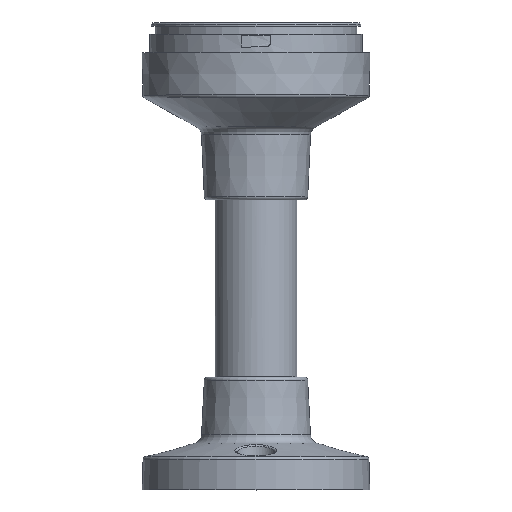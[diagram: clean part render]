
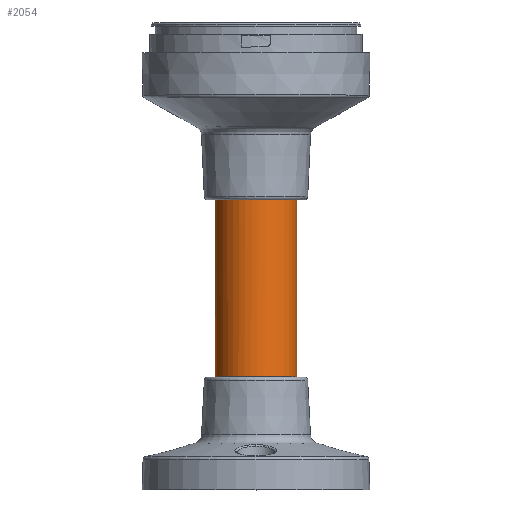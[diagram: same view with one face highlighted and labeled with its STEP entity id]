
A CAD part, top view. The second image highlights one B-rep face of the part: STEP entity #2054.
In plain terms, the highlighted cylindrical face has radius 12.7 mm (diameter 25.4 mm), a full revolution.
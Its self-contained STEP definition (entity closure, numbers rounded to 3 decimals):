
#151=CYLINDRICAL_SURFACE('',#24389,12.7);
#2054=ADVANCED_FACE('',(#5658,#5659),#151,.T.);
#4639=CIRCLE('',#24161,12.7);
#4641=CIRCLE('',#24164,12.7);
#4652=CIRCLE('',#24184,12.7);
#4654=CIRCLE('',#24186,12.7);
#4751=CIRCLE('',#24383,12.7);
#4752=CIRCLE('',#24385,12.7);
#4753=CIRCLE('',#24387,12.7);
#4754=CIRCLE('',#24388,12.7);
#5658=FACE_BOUND('',#6088,.T.);
#5659=FACE_BOUND('',#6089,.T.);
#6088=EDGE_LOOP('',(#8295,#8296,#8297,#8298));
#6089=EDGE_LOOP('',(#8299,#8300,#8301,#8302));
#8295=ORIENTED_EDGE('',*,*,#17330,.F.);
#8296=ORIENTED_EDGE('',*,*,#17071,.T.);
#8297=ORIENTED_EDGE('',*,*,#17329,.F.);
#8298=ORIENTED_EDGE('',*,*,#17075,.T.);
#8299=ORIENTED_EDGE('',*,*,#17055,.T.);
#8300=ORIENTED_EDGE('',*,*,#17331,.T.);
#8301=ORIENTED_EDGE('',*,*,#17057,.T.);
#8302=ORIENTED_EDGE('',*,*,#17332,.T.);
#14780=VERTEX_POINT('',#33511);
#14781=VERTEX_POINT('',#33512);
#14782=VERTEX_POINT('',#33516);
#14783=VERTEX_POINT('',#33517);
#14796=VERTEX_POINT('',#33600);
#14798=VERTEX_POINT('',#33603);
#14801=VERTEX_POINT('',#33619);
#14802=VERTEX_POINT('',#33621);
#17055=EDGE_CURVE('',#14781,#14780,#4639,.T.);
#17057=EDGE_CURVE('',#14783,#14782,#4641,.T.);
#17071=EDGE_CURVE('',#14798,#14796,#4652,.T.);
#17075=EDGE_CURVE('',#14802,#14801,#4654,.T.);
#17329=EDGE_CURVE('',#14802,#14796,#4751,.T.);
#17330=EDGE_CURVE('',#14798,#14801,#4752,.T.);
#17331=EDGE_CURVE('',#14780,#14783,#4753,.T.);
#17332=EDGE_CURVE('',#14782,#14781,#4754,.T.);
#24161=AXIS2_PLACEMENT_3D('',#33513,#26680,#26681);
#24164=AXIS2_PLACEMENT_3D('',#33518,#26686,#26687);
#24184=AXIS2_PLACEMENT_3D('',#33602,#26726,#26727);
#24186=AXIS2_PLACEMENT_3D('',#33620,#26730,#26731);
#24383=AXIS2_PLACEMENT_3D('',#35919,#27180,#27181);
#24385=AXIS2_PLACEMENT_3D('',#35921,#27184,#27185);
#24387=AXIS2_PLACEMENT_3D('',#35923,#27188,#27189);
#24388=AXIS2_PLACEMENT_3D('',#35924,#27190,#27191);
#24389=AXIS2_PLACEMENT_3D('',#35925,#27192,#27193);
#26680=DIRECTION('',(0.,1.,0.));
#26681=DIRECTION('',(1.,0.,0.));
#26686=DIRECTION('',(0.,1.,0.));
#26687=DIRECTION('',(1.,0.,0.));
#26726=DIRECTION('',(0.,-1.,0.));
#26727=DIRECTION('',(0.036,0.,-0.999));
#26730=DIRECTION('',(0.,-1.,0.));
#26731=DIRECTION('',(-1.,0.,0.));
#27180=DIRECTION('',(0.,1.,0.));
#27181=DIRECTION('',(1.,0.,0.));
#27184=DIRECTION('',(0.,1.,0.));
#27185=DIRECTION('',(1.,0.,0.));
#27188=DIRECTION('',(0.,1.,0.));
#27189=DIRECTION('',(-1.,0.,0.));
#27190=DIRECTION('',(0.,1.,0.));
#27191=DIRECTION('',(0.416,0.,0.909));
#27192=DIRECTION('',(0.,1.,0.));
#27193=DIRECTION('',(-1.,0.,0.));
#33511=CARTESIAN_POINT('',(-5.87,-70.7,-11.262));
#33512=CARTESIAN_POINT('',(-3.813,-70.7,-12.114));
#33513=CARTESIAN_POINT('',(0.,-70.7,0.));
#33516=CARTESIAN_POINT('',(5.282,-70.7,11.55));
#33517=CARTESIAN_POINT('',(4.432,-70.7,11.902));
#33518=CARTESIAN_POINT('',(0.,-70.7,0.));
#33600=CARTESIAN_POINT('',(1.113,24.3,12.651));
#33602=CARTESIAN_POINT('',(0.,24.3,0.));
#33603=CARTESIAN_POINT('',(0.46,24.3,-12.692));
#33619=CARTESIAN_POINT('',(-0.46,24.3,-12.692));
#33620=CARTESIAN_POINT('',(0.,24.3,0.));
#33621=CARTESIAN_POINT('',(-1.113,24.3,12.651));
#35919=CARTESIAN_POINT('',(0.,24.3,0.));
#35921=CARTESIAN_POINT('',(0.,24.3,0.));
#35923=CARTESIAN_POINT('',(0.,-70.7,0.));
#35924=CARTESIAN_POINT('',(0.,-70.7,0.));
#35925=CARTESIAN_POINT('',(0.,-70.7,0.));
